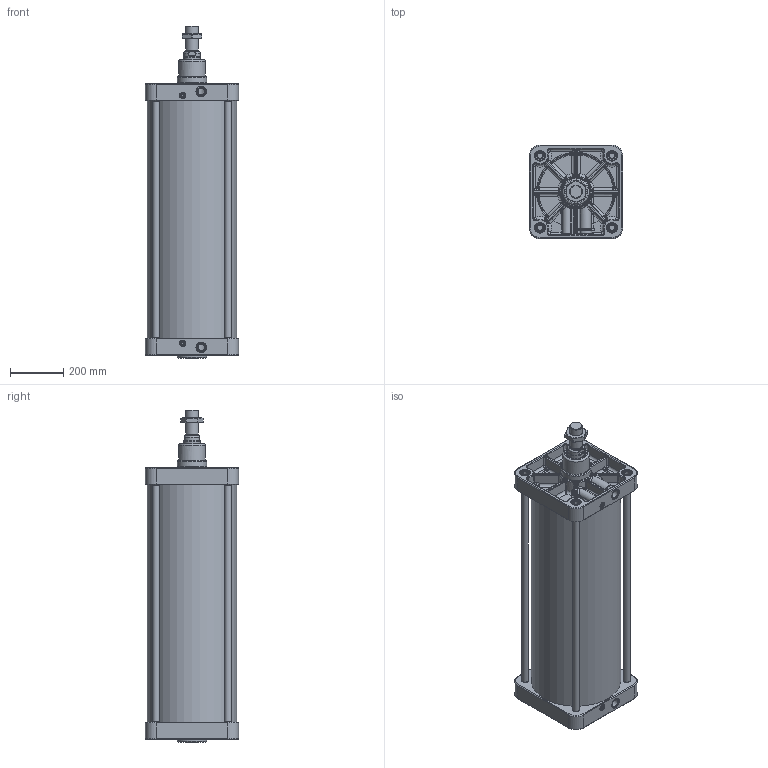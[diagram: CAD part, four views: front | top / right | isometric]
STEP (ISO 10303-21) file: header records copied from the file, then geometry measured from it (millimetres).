
FILE_DESCRIPTION(/* description */ (''),/* implementation_level */ '2;1');
FILE_NAME(/* name */ 'T:\Archivio Inventor\- 00 NUOVI STP PER SITO CON STELO CHE SI MUOVE\SERIE H - U\SERIE UDM\UDM320.---.GS.M\UDM320.800.GS.M.stp',/* time_stamp */ '2020-04-29T16:38:44+02:00',/* author */ ('carlo.corazza'),/* organization */ (''),/* preprocessor_version */ 'ST-DEVELOPER v16.5',/* originating_system */ 'Autodesk Inventor 2017',/* authorisation */ '');
FILE_SCHEMA (('AUTOMOTIVE_DESIGN { 1 0 10303 214 3 1 1 }'));
Length unit declared in the file: millimetre
Products named in the file (7): UDM320.800.GS.M; TP; STELO-800; TA; CORPO-800; TIRANTE-800; 29.2048.000.0
Assembly tree (9 placements, depth 2):
  UDM320.800.GS.M
    TP
    STELO-800
    TA
    TIRANTE-800  x4
    CORPO-800
    29.2048.000.0
Bounding box: 350 x 350 x 1246 mm (x, y, z)
Volume: 21697398.6 mm3; surface area: 3526096.4 mm2
Topology: 9 solids, 16 shells, 1710 faces, 3937 edges, 2221 vertices
Faces by surface type: cylinder 439, bspline 432, plane 380, torus 252, cone 115, sphere 92
Full cylindrical faces by diameter (mm): 8 x2, 9 x1, 10 x1, 11 x2, 11.2 x2, 12 x2, 12.376 x1, 13.4 x4, 14 x2, 15.8 x4, 16 x6, 20.752 x8, 24 x10, 24.5 x8, 25 x6, 30.291 x2, 36 x9, 37 x8, 40 x2, 44.8 x1, 45.835 x1, 48 x1, 62 x1, 63 x1, 64 x1, 64.293 x1, 65.8 x1, 73 x1, 75 x3, 100 x1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
Entity records: 64917 total; most frequent: CARTESIAN_POINT 27888, DIRECTION 7314, ORIENTED_EDGE 7088, EDGE_CURVE 3544, AXIS2_PLACEMENT_3D 3113, VERTEX_POINT 2134, EDGE_LOOP 1966, FACE_OUTER_BOUND 1683
